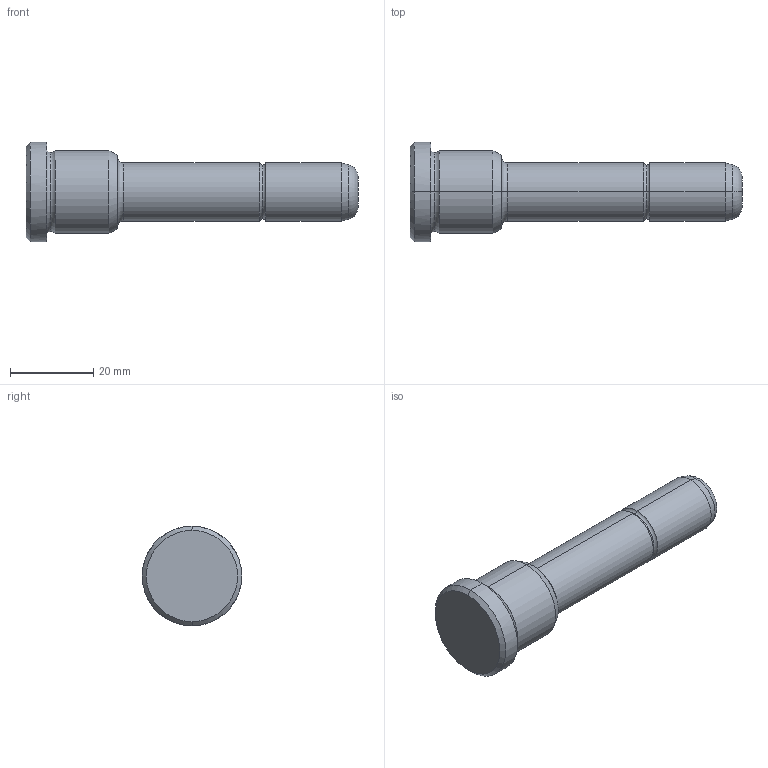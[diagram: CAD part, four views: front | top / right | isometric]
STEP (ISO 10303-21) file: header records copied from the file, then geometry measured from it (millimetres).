
FILE_DESCRIPTION(('CATIA V5 STEP Exchange'),'2;1');
FILE_NAME('C:\Users\Utente\Desktop\IO LAVORO\3D X SITO CF\X SITO\PLASTICA\351\351-14X22X80.stp','2021-08-18T09:58:59+00:00',('none'),('none'),'CATIA Version 5 Release 20 GA (IN-10)','CATIA V5 STEP AP203','none');
FILE_SCHEMA(('CONFIG_CONTROL_DESIGN'));
Length unit declared in the file: millimetre
Products named in the file (1): 351-14X22X80
Bounding box: 80 x 24 x 24 mm (x, y, z)
Volume: 16254.7 mm3; surface area: 4722.4 mm2
Topology: 1 solids, 1 shells, 30 faces, 86 edges, 60 vertices
Faces by surface type: torus 12, cylinder 8, cone 6, plane 4
Entity records: 1112 total; most frequent: CARTESIAN_POINT 289, ORIENTED_EDGE 172, DIRECTION 138, AXIS2_PLACEMENT_3D 95, EDGE_CURVE 86, CIRCLE 64, VERTEX_POINT 60, EDGE_LOOP 32
